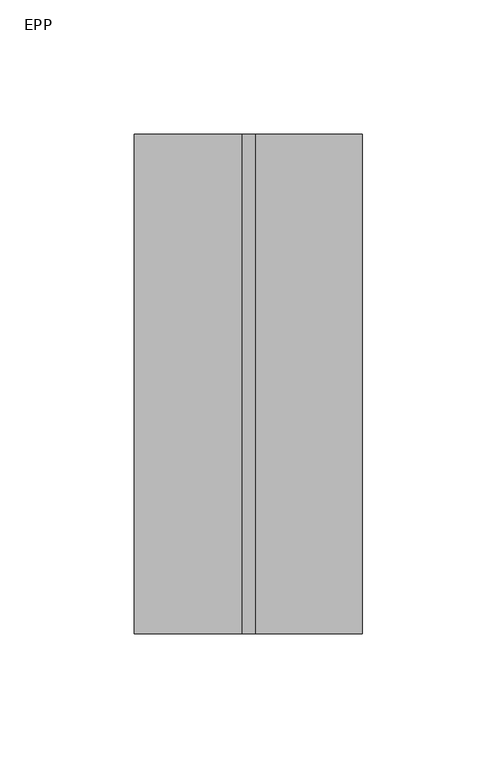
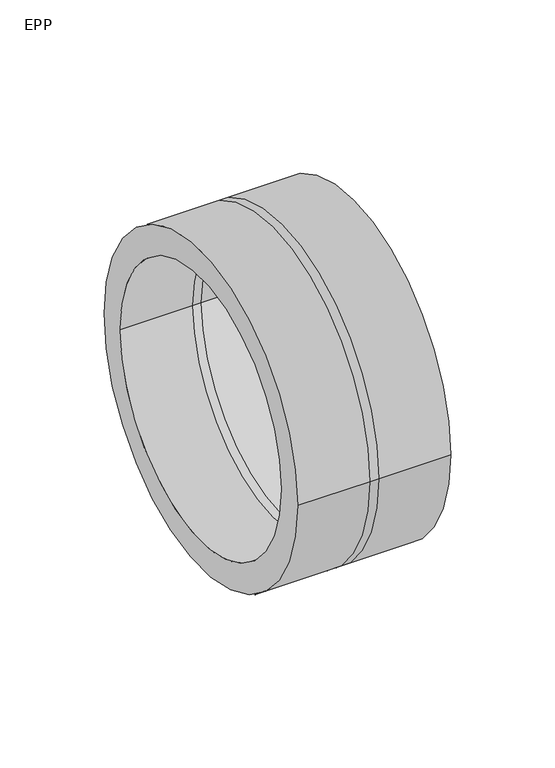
"""IFC4 building model written with IfcOpenShell, lengths in millimetres: duct fitting geometry, NLRS_57_DUF_UN_sleeve joint EPP_M&G : EPP."""

from ifc_helpers import new_model, si_unit, frame, origin, place, context, project, spatial, polyline, circle_curve, source, transform, mapped, element, save
from ifc_brep_helpers import plane_surface, cylinder_surface, revolved_surface, advanced_brep


def epp_271a449d(model_context):
    return source(origin(), model_context, "Body", "AdvancedBrep", [
        advanced_brep(
        [(-42.5, -93.0, 0.0), (-42.5, 93.0, 0.0), (-42.5, -77.25, 0.0), (-42.5, 77.25, 0.0), (-2.5, -93.0, 0.0), (-2.5, 93.0, 0.0), (-2.5, -77.25, 0.0), (-2.5, 77.25, 0.0), (2.5, -93.0, 0.0), (2.5, 93.0, 0.0), (42.5, -93.0, 0.0), (42.5, 93.0, 0.0), (42.5, -77.25, 0.0), (42.5, 77.25, 0.0), (2.5, 77.25, 0.0), (2.5, -77.25, 0.0)],
        [
            (0, 1, circle_curve(frame((-42.5, 0.0, 0.0), z_axis=(-1.0, 0.0, 0.0), x_axis=(0.0, 1.0, 0.0)), 93.0)),
            (1, 0, circle_curve(frame((-42.5, 0.0, 0.0), z_axis=(-1.0, 0.0, 0.0), x_axis=(0.0, 1.0, 0.0)), 93.0)),
            (2, 3, circle_curve(frame((-42.5, 0.0, 0.0), z_axis=(1.0, 0.0, 0.0), x_axis=(0.0, 1.0, 0.0)), 77.25)),
            (3, 2, circle_curve(frame((-42.5, 0.0, 0.0), z_axis=(1.0, 0.0, 0.0), x_axis=(0.0, 1.0, 0.0)), 77.25)),
            (0, 4),
            (4, 5, circle_curve(frame((-2.5, 0.0, 0.0), z_axis=(-1.0, 0.0, 0.0), x_axis=(0.0, 1.0, 0.0)), 93.0)),
            (5, 1),
            (5, 4, circle_curve(frame((-2.5, 0.0, 0.0), z_axis=(-1.0, 0.0, 0.0), x_axis=(0.0, 1.0, 0.0)), 93.0)),
            (2, 6),
            (6, 7, circle_curve(frame((-2.5, 0.0, 0.0), z_axis=(1.0, 0.0, 0.0), x_axis=(0.0, 1.0, 0.0)), 77.25)),
            (7, 3),
            (7, 6, circle_curve(frame((-2.5, 0.0, 0.0), z_axis=(1.0, 0.0, 0.0), x_axis=(0.0, 1.0, 0.0)), 77.25)),
            (4, 8),
            (8, 9, circle_curve(frame((2.5, 0.0, 0.0), z_axis=(-1.0, 0.0, 0.0), x_axis=(0.0, 1.0, 0.0)), 93.0)),
            (9, 5),
            (9, 8, circle_curve(frame((2.5, 0.0, 0.0), z_axis=(-1.0, 0.0, 0.0), x_axis=(0.0, 1.0, 0.0)), 93.0)),
            (10, 11, circle_curve(frame((42.5, 0.0, 0.0), z_axis=(1.0, 0.0, 0.0), x_axis=(0.0, 1.0, 0.0)), 93.0)),
            (11, 10, circle_curve(frame((42.5, 0.0, 0.0), z_axis=(1.0, 0.0, 0.0), x_axis=(0.0, 1.0, 0.0)), 93.0)),
            (12, 13, circle_curve(frame((42.5, 0.0, 0.0), z_axis=(-1.0, 0.0, 0.0), x_axis=(0.0, 1.0, 0.0)), 77.25)),
            (13, 12, circle_curve(frame((42.5, 0.0, 0.0), z_axis=(-1.0, 0.0, 0.0), x_axis=(0.0, 1.0, 0.0)), 77.25)),
            (11, 9),
            (8, 10),
            (13, 14),
            (14, 15, circle_curve(frame((2.5, 0.0, 0.0), z_axis=(-1.0, 0.0, 0.0), x_axis=(0.0, 1.0, 0.0)), 77.25)),
            (15, 12),
            (15, 14, circle_curve(frame((2.5, 0.0, 0.0), z_axis=(-1.0, 0.0, 0.0), x_axis=(0.0, 1.0, 0.0)), 77.25)),
            (6, 15),
            (14, 7),
        ],
        [
            plane_surface(frame((-42.5, 0.0, 0.0), z_axis=(-1.0, 0.0, 0.0), x_axis=(0.0, 0.0, 1.0))),
            cylinder_surface(frame((-42.5, 0.0, 0.0), z_axis=(-1.0, 0.0, 0.0), x_axis=(0.0, 1.0, 0.0)), 93.0),
            revolved_surface(polyline([(-2.5, 77.25, 0.0), (-42.5, 77.25, 0.0)]), (-42.5, 0.0, 0.0), (1.0, 0.0, 0.0)),
            cylinder_surface(frame((-2.5, 0.0, 0.0), z_axis=(-1.0, 0.0, 0.0), x_axis=(0.0, 1.0, 0.0)), 93.0),
            plane_surface(frame((42.5, 0.0, 0.0), z_axis=(1.0, 0.0, 0.0), x_axis=(0.0, 0.0, 1.0))),
            cylinder_surface(frame((2.5, 0.0, 0.0), z_axis=(-1.0, 0.0, 0.0), x_axis=(0.0, 1.0, 0.0)), 93.0),
            revolved_surface(polyline([(42.5, 77.25, 0.0), (2.5, 77.25, 0.0)]), (2.5, 0.0, 0.0), (1.0, 0.0, 0.0)),
            revolved_surface(polyline([(2.5, 77.25, 0.0), (-2.5, 77.25, 0.0)]), (-2.5, 0.0, 0.0), (1.0, 0.0, 0.0)),
        ],
        [
            (0, [[1, 2], [3, 4]]),
            (1, [[-1, 5, 6, 7]]),
            (1, [[-2, -7, 8, -5]]),
            (2, [[-3, 9, 10, 11]]),
            (2, [[-4, -11, 12, -9]]),
            (3, [[13, 14, 15, -6]]),
            (3, [[-13, -8, -15, 16]]),
            (4, [[17, 18], [19, 20]]),
            (5, [[-18, 21, -14, 22]]),
            (5, [[-17, -22, -16, -21]]),
            (6, [[-20, 23, 24, 25]]),
            (6, [[-19, -25, 26, -23]]),
            (7, [[27, -24, 28, -10]]),
            (7, [[-27, -12, -28, -26]]),
        ],
    ),
    ])


if __name__ == "__main__":
    model = new_model("IFC4")
    model_context = context("Model", 3, world=origin())
    ifc_project = project(units=[si_unit("LENGTHUNIT", "METRE", prefix="MILLI")], contexts=[model_context])
    site = spatial("IfcSite", under=ifc_project)
    building = spatial("IfcBuilding", under=site)
    placement = place(None, origin())
    epp_shape = epp_271a449d(model_context)
    element("IfcDuctFitting", 1, ObjectType="NLRS_57_DUF_UN_sleeve joint EPP_M&G : EPP", at=placement, inside=building, context=model_context, shape_type="MappedRepresentation", body=[
        mapped(epp_shape, transform((0.0, 0.0, 0.0), x_axis=(1.0, 0.0, 0.0), y_axis=(0.0, 1.0, 0.0), z_axis=(0.0, 0.0, 1.0))),
    ])
    save(model, "model.ifc")
